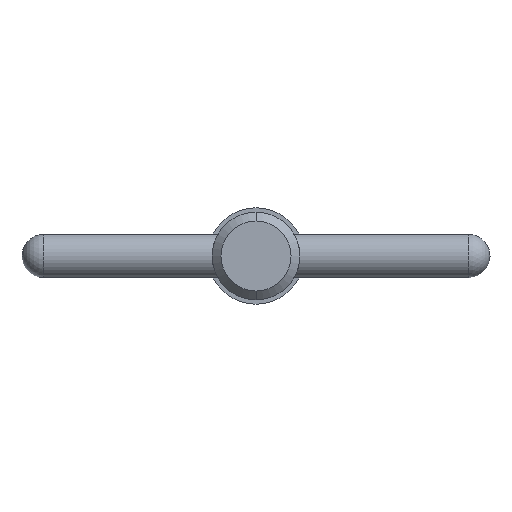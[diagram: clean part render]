
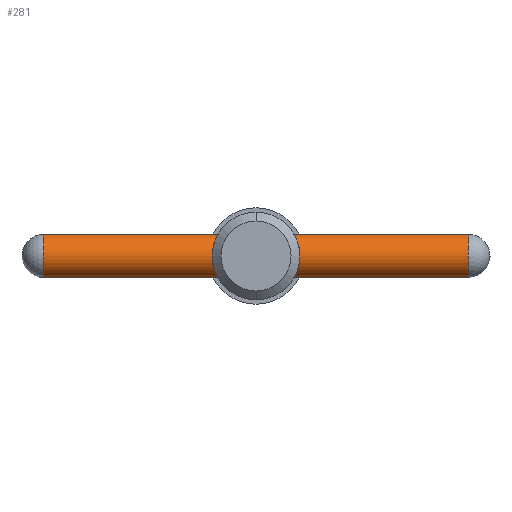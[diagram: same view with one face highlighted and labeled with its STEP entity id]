
A CAD part, left-side view. The second image highlights one B-rep face of the part: STEP entity #281.
In plain terms, the highlighted cylindrical face has radius 1.19 mm (diameter 2.38 mm), a partial arc.
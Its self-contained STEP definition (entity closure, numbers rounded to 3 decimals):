
#48 = CARTESIAN_POINT ( 'NONE',  ( 0., -11.51, 1.19 ) ) ;
#84 = CIRCLE ( 'NONE', #638, 1.19 ) ;
#98 = EDGE_CURVE ( 'NONE', #794, #856, #541, .T. ) ;
#128 = DIRECTION ( 'NONE',  ( 0., 1., 0. ) ) ;
#183 = FACE_OUTER_BOUND ( 'NONE', #902, .T. ) ;
#207 = DIRECTION ( 'NONE',  ( 0., -1., 0. ) ) ;
#220 = CARTESIAN_POINT ( 'NONE',  ( 0., 12.7, -1.19 ) ) ;
#249 = CYLINDRICAL_SURFACE ( 'NONE', #509, 1.19 ) ;
#281 = ADVANCED_FACE ( 'NONE', ( #183 ), #249, .T. ) ;
#307 = EDGE_CURVE ( 'NONE', #789, #494, #84, .T. ) ;
#326 = CARTESIAN_POINT ( 'NONE',  ( 0., 11.51, 1.19 ) ) ;
#328 = DIRECTION ( 'NONE',  ( 0., 0., -1. ) ) ;
#348 = LINE ( 'NONE', #353, #842 ) ;
#353 = CARTESIAN_POINT ( 'NONE',  ( 0., 12.7, 1.19 ) ) ;
#405 = DIRECTION ( 'NONE',  ( 0., -1., 0. ) ) ;
#429 = DIRECTION ( 'NONE',  ( 0., 0., -1. ) ) ;
#472 = DIRECTION ( 'NONE',  ( 0., -1., 0. ) ) ;
#494 = VERTEX_POINT ( 'NONE', #879 ) ;
#509 = AXIS2_PLACEMENT_3D ( 'NONE', #621, #405, #544 ) ;
#511 = ORIENTED_EDGE ( 'NONE', *, *, #98, .T. ) ;
#522 = DIRECTION ( 'NONE',  ( 0., -1., 0. ) ) ;
#541 = CIRCLE ( 'NONE', #746, 1.19 ) ;
#544 = DIRECTION ( 'NONE',  ( 0., 0., -1. ) ) ;
#567 = ORIENTED_EDGE ( 'NONE', *, *, #307, .T. ) ;
#612 = EDGE_CURVE ( 'NONE', #494, #794, #665, .T. ) ;
#621 = CARTESIAN_POINT ( 'NONE',  ( 0., 12.7, 0. ) ) ;
#638 = AXIS2_PLACEMENT_3D ( 'NONE', #776, #472, #328 ) ;
#647 = CARTESIAN_POINT ( 'NONE',  ( 0., -11.51, -1.19 ) ) ;
#665 = LINE ( 'NONE', #220, #959 ) ;
#703 = ORIENTED_EDGE ( 'NONE', *, *, #612, .T. ) ;
#746 = AXIS2_PLACEMENT_3D ( 'NONE', #886, #128, #429 ) ;
#776 = CARTESIAN_POINT ( 'NONE',  ( 0., 11.51, 0. ) ) ;
#789 = VERTEX_POINT ( 'NONE', #326 ) ;
#794 = VERTEX_POINT ( 'NONE', #647 ) ;
#834 = EDGE_CURVE ( 'NONE', #789, #856, #348, .T. ) ;
#842 = VECTOR ( 'NONE', #207, 1000. ) ;
#856 = VERTEX_POINT ( 'NONE', #48 ) ;
#879 = CARTESIAN_POINT ( 'NONE',  ( 0., 11.51, -1.19 ) ) ;
#886 = CARTESIAN_POINT ( 'NONE',  ( 0., -11.51, 0. ) ) ;
#902 = EDGE_LOOP ( 'NONE', ( #924, #567, #703, #511 ) ) ;
#924 = ORIENTED_EDGE ( 'NONE', *, *, #834, .F. ) ;
#959 = VECTOR ( 'NONE', #522, 1000. ) ;
